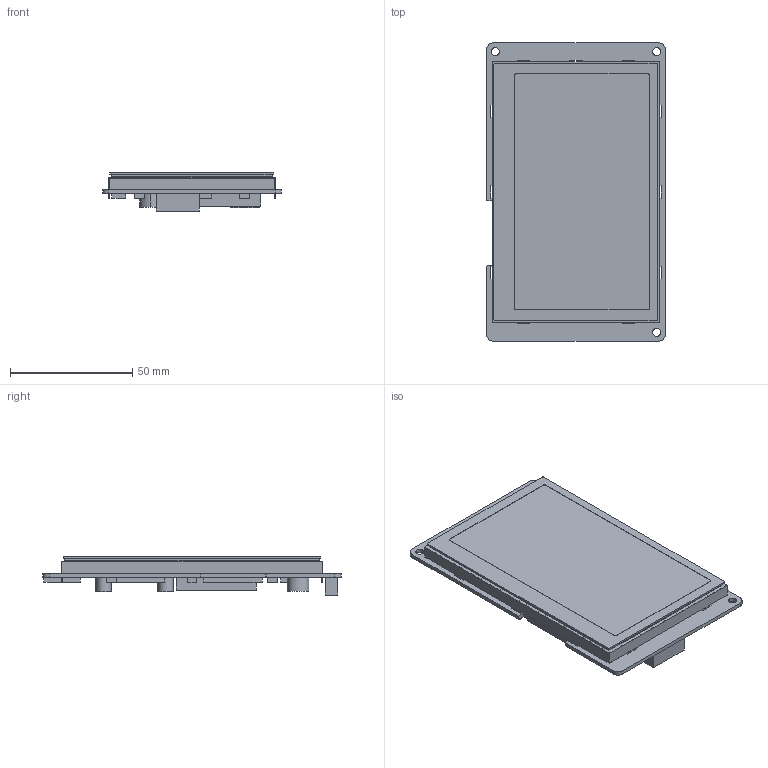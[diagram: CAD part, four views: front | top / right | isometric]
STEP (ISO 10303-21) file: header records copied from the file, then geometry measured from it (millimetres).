
FILE_DESCRIPTION((''),'2;1');
FILE_NAME('DMG48270C043-05WTC','2022-01-13T',('Administrator'),(''),'PRO/ENGINEER BY PARAMETRIC TECHNOLOGY CORPORATION, 2011310','PRO/ENGINEER BY PARAMETRIC TECHNOLOGY CORPORATION, 2011310','');
FILE_SCHEMA(('CONFIG_CONTROL_DESIGN','SHAPE_APPEARANCE_LAYERS_GROUPS'));
Length unit declared in the file: millimetre
Products named in the file (1): DMG48270C043-05WTC
Bounding box: 73.15 x 121.92 x 15.57 mm (x, y, z)
Volume: 55257.4 mm3; surface area: 52314.9 mm2
Topology: 1 solids, 1 shells, 312 faces, 888 edges, 583 vertices
Faces by surface type: plane 253, cylinder 59
Entity records: 11965 total; most frequent: CARTESIAN_POINT 1783, ORIENTED_EDGE 1776, DIRECTION 1630, EDGE_CURVE 888, VECTOR 770, LINE 770, VERTEX_POINT 583, AXIS2_PLACEMENT_3D 430
